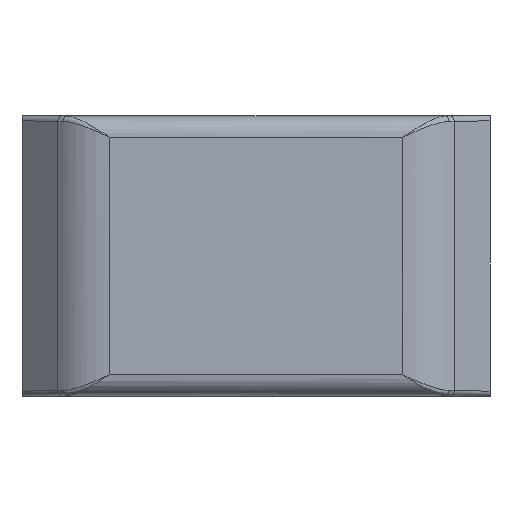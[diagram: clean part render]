
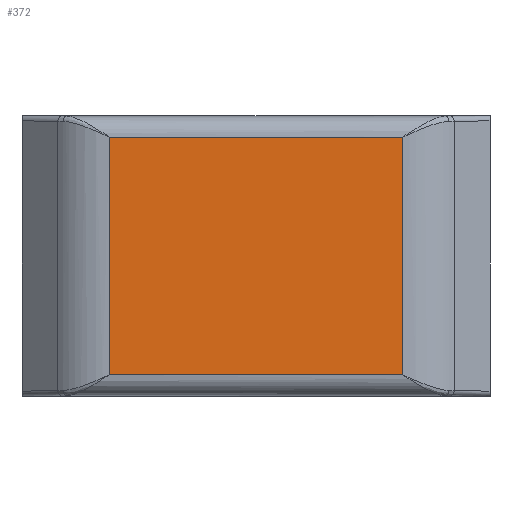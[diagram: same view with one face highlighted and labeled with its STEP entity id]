
A CAD part, top view. The second image highlights one B-rep face of the part: STEP entity #372.
In plain terms, the highlighted planar face has unit normal (0, 0, 1).
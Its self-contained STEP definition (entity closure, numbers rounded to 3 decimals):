
#277 = DIRECTION ( 'NONE',  ( 1., 0., 0. ) ) ;
#278 = CARTESIAN_POINT ( 'NONE',  ( 14.101, -11.43, 6. ) ) ;
#279 = DIRECTION ( 'NONE',  ( 0., -1., 0. ) ) ;
#280 = CARTESIAN_POINT ( 'NONE',  ( -14.101, 13.5, 6. ) ) ;
#283 = DIRECTION ( 'NONE',  ( -1., 0., 0. ) ) ;
#285 = DIRECTION ( 'NONE',  ( 0., 1., 0. ) ) ;
#292 = CARTESIAN_POINT ( 'NONE',  ( 17., 11.43, 6. ) ) ;
#298 = CARTESIAN_POINT ( 'NONE',  ( 14.101, 13.5, 6. ) ) ;
#365 = CARTESIAN_POINT ( 'NONE',  ( 14.101, -11.43, 6. ) ) ;
#372 = ADVANCED_FACE ( 'NONE', ( #2302 ), #2107, .F. ) ;
#591 = VERTEX_POINT ( 'NONE', #699 ) ;
#699 = CARTESIAN_POINT ( 'NONE',  ( 14.101, 11.43, 6. ) ) ;
#1000 = VERTEX_POINT ( 'NONE', #365 ) ;
#1113 = EDGE_CURVE ( 'NONE', #1000, #591, #1896, .T. ) ;
#1114 = EDGE_CURVE ( 'NONE', #591, #1589, #1893, .T. ) ;
#1115 = EDGE_CURVE ( 'NONE', #1589, #1540, #1888, .T. ) ;
#1116 = EDGE_CURVE ( 'NONE', #1540, #1000, #1886, .T. ) ;
#1540 = VERTEX_POINT ( 'NONE', #1717 ) ;
#1589 = VERTEX_POINT ( 'NONE', #1710 ) ;
#1710 = CARTESIAN_POINT ( 'NONE',  ( -14.101, 11.43, 6. ) ) ;
#1717 = CARTESIAN_POINT ( 'NONE',  ( -14.101, -11.43, 6. ) ) ;
#1883 = VECTOR ( 'NONE', #277, 1000. ) ;
#1885 = VECTOR ( 'NONE', #279, 1000. ) ;
#1886 = LINE ( 'NONE', #278, #1883 ) ;
#1887 = VECTOR ( 'NONE', #283, 1000. ) ;
#1888 = LINE ( 'NONE', #280, #1885 ) ;
#1889 = VECTOR ( 'NONE', #285, 1000. ) ;
#1893 = LINE ( 'NONE', #292, #1887 ) ;
#1896 = LINE ( 'NONE', #298, #1889 ) ;
#1996 = AXIS2_PLACEMENT_3D ( 'NONE', #2106, #2100, #2097 ) ;
#2097 = DIRECTION ( 'NONE',  ( -1., 0., 0. ) ) ;
#2100 = DIRECTION ( 'NONE',  ( 0., 0., -1. ) ) ;
#2106 = CARTESIAN_POINT ( 'NONE',  ( 17., 13.5, 6. ) ) ;
#2107 = PLANE ( 'NONE',  #1996 ) ;
#2302 = FACE_OUTER_BOUND ( 'NONE', #2476, .T. ) ;
#2383 = ORIENTED_EDGE ( 'NONE', *, *, #1113, .T. ) ;
#2384 = ORIENTED_EDGE ( 'NONE', *, *, #1114, .T. ) ;
#2385 = ORIENTED_EDGE ( 'NONE', *, *, #1115, .T. ) ;
#2386 = ORIENTED_EDGE ( 'NONE', *, *, #1116, .T. ) ;
#2476 = EDGE_LOOP ( 'NONE', ( #2383, #2384, #2385, #2386 ) ) ;
